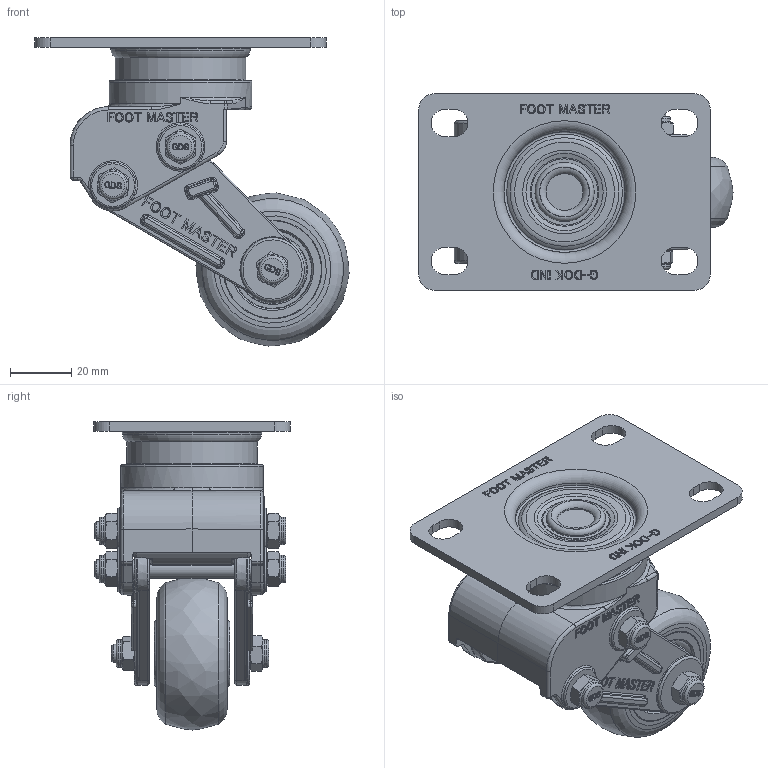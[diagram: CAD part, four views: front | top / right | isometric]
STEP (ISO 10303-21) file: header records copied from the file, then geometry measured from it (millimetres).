
FILE_DESCRIPTION(/* description */ (''),/* implementation_level */ '2;1');
FILE_NAME(/* name */ 'C:\Users\admin\Desktop\JYS\개발품\상세설계_20220328\홈페이지용 도면\GDS-50-ARF-EUS-PUS.stp',/* time_stamp */ '2023-03-08T15:30:55+09:00',/* author */ ('admin'),/* organization */ (''),/* preprocessor_version */ 'ST-DEVELOPER v18.1',/* originating_system */ 'Autodesk Inventor 2021',/* authorisation */ '');
FILE_SCHEMA (('AUTOMOTIVE_DESIGN { 1 0 10303 214 3 1 1 }'));
Products named in the file (1): GDS-50_ARF_(US)_REV01_Shrinkwrap_1
Bounding box: 102.47 x 64 x 100.48 mm (x, y, z)
Volume: 128455 mm3; surface area: 50263.6 mm2
Topology: 1 solids, 1 shells, 2057 faces, 5451 edges, 3511 vertices
Faces by surface type: plane 811, bspline 652, cylinder 295, cone 163, torus 116, sphere 20
Full cylindrical faces by diameter (mm): 6 x5, 8.8 x3, 9 x6, 12 x1, 17.216 x2, 18 x1, 19.3 x1, 20 x2, 22 x2, 22.784 x2, 42.5 x1, 46.5 x1
Entity records: 71613 total; most frequent: CARTESIAN_POINT 22623, ORIENTED_EDGE 10878, DIRECTION 7932, EDGE_CURVE 5439, VERTEX_POINT 3511, AXIS2_PLACEMENT_3D 2652, LINE 2628, VECTOR 2628
